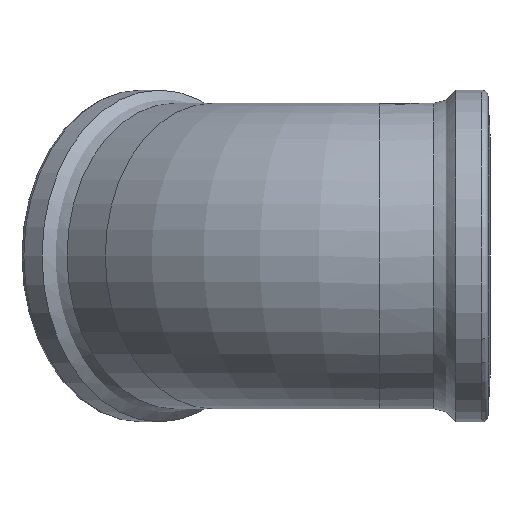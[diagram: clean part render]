
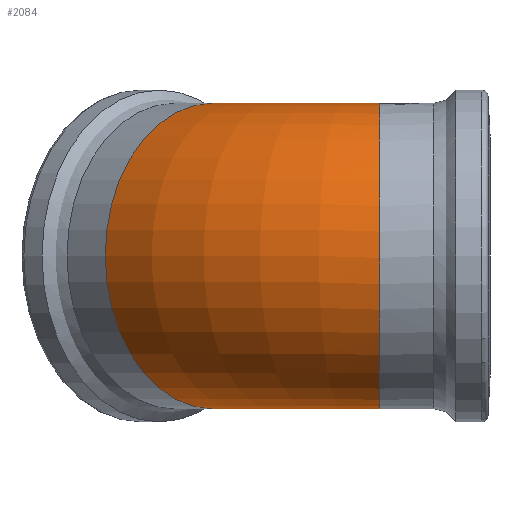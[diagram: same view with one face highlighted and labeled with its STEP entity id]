
A CAD part, left-side view. The second image highlights one B-rep face of the part: STEP entity #2084.
In plain terms, the highlighted toroidal (fillet/blend) face has major radius 37.4 mm and minor radius 24.25 mm.
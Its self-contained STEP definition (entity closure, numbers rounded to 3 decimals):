
#246=CARTESIAN_POINT('',(-0.134,17.5,24.25));
#247=VERTEX_POINT('',#246);
#257=CARTESIAN_POINT('',(-0.382,17.776,24.247));
#258=VERTEX_POINT('',#257);
#259=CARTESIAN_POINT('',(-0.382,17.776,24.247));
#260=CARTESIAN_POINT('',(-0.299,17.683,24.248));
#261=CARTESIAN_POINT('',(-0.216,17.591,24.249));
#262=CARTESIAN_POINT('',(-0.134,17.5,24.25));
#263=B_SPLINE_CURVE_WITH_KNOTS('',3,(#259,#260,#261,#262),.UNSPECIFIED.,.F.,.U.,(4,4),(23.257,23.293),.UNSPECIFIED.);
#264=EDGE_CURVE('',#258,#247,#263,.T.);
#338=CARTESIAN_POINT('',(-0.63,17.5,24.242));
#339=VERTEX_POINT('',#338);
#340=CARTESIAN_POINT('',(-0.63,17.5,24.242));
#341=CARTESIAN_POINT('',(-0.547,17.592,24.244));
#342=CARTESIAN_POINT('',(-0.464,17.684,24.246));
#343=CARTESIAN_POINT('',(-0.382,17.776,24.247));
#344=B_SPLINE_CURVE_WITH_KNOTS('',3,(#340,#341,#342,#343),.UNSPECIFIED.,.F.,.U.,(4,4),(23.175,23.211),.UNSPECIFIED.);
#345=EDGE_CURVE('',#339,#258,#344,.T.);
#913=CARTESIAN_POINT('',(23.829,17.5,-4.5));
#914=VERTEX_POINT('',#913);
#915=CARTESIAN_POINT('',(0.0,17.5,0.0));
#916=DIRECTION('',(0.0,-1.0,0.0));
#917=DIRECTION('',(1.0,0.0,0.0));
#918=AXIS2_PLACEMENT_3D('',#915,#916,#917);
#919=CIRCLE('',#918,24.25);
#920=EDGE_CURVE('',#339,#914,#919,.T.);
#939=CARTESIAN_POINT('',(23.829,17.5,4.5));
#940=VERTEX_POINT('',#939);
#947=CARTESIAN_POINT('',(0.0,17.5,0.0));
#948=DIRECTION('',(0.0,-1.0,0.0));
#949=DIRECTION('',(1.0,0.0,0.0));
#950=AXIS2_PLACEMENT_3D('',#947,#948,#949);
#951=CIRCLE('',#950,24.25);
#952=EDGE_CURVE('',#940,#247,#951,.T.);
#1239=CARTESIAN_POINT('',(27.804,27.096,-4.5));
#1240=VERTEX_POINT('',#1239);
#1241=CARTESIAN_POINT('',(37.4,17.5,-4.5));
#1242=DIRECTION('',(0.0,0.0,1.0));
#1243=DIRECTION('',(-1.0,0.0,0.0));
#1244=AXIS2_PLACEMENT_3D('',#1241,#1242,#1243);
#1245=CIRCLE('',#1244,13.571);
#1246=EDGE_CURVE('',#1240,#914,#1245,.T.);
#1320=CARTESIAN_POINT('',(27.804,27.096,4.5));
#1321=VERTEX_POINT('',#1320);
#1328=CARTESIAN_POINT('',(37.4,17.5,4.5));
#1329=DIRECTION('',(0.0,0.0,-1.0));
#1330=DIRECTION('',(-1.0,0.0,0.0));
#1331=AXIS2_PLACEMENT_3D('',#1328,#1329,#1330);
#1332=CIRCLE('',#1331,13.571);
#1333=EDGE_CURVE('',#940,#1321,#1332,.T.);
#2057=CARTESIAN_POINT('',(10.954,43.946,0.0));
#2058=DIRECTION('',(-0.707,-0.707,0.0));
#2059=DIRECTION('',(0.707,-0.707,0.0));
#2060=AXIS2_PLACEMENT_3D('',#2057,#2058,#2059);
#2061=CIRCLE('',#2060,24.25);
#2062=EDGE_CURVE('',#1321,#1240,#2061,.T.);
#2070=CARTESIAN_POINT('',(37.4,17.5,0.0));
#2071=DIRECTION('',(0.0,0.0,-1.0));
#2072=DIRECTION('',(-1.0,0.0,0.0));
#2073=AXIS2_PLACEMENT_3D('',#2070,#2071,#2072);
#2074=TOROIDAL_SURFACE('',#2073,37.4,24.25);
#2075=ORIENTED_EDGE('',*,*,#264,.T.);
#2076=ORIENTED_EDGE('',*,*,#952,.F.);
#2077=ORIENTED_EDGE('',*,*,#1333,.T.);
#2078=ORIENTED_EDGE('',*,*,#2062,.T.);
#2079=ORIENTED_EDGE('',*,*,#1246,.T.);
#2080=ORIENTED_EDGE('',*,*,#920,.F.);
#2081=ORIENTED_EDGE('',*,*,#345,.T.);
#2082=EDGE_LOOP('',(#2075,#2076,#2077,#2078,#2079,#2080,#2081));
#2083=FACE_OUTER_BOUND('',#2082,.T.);
#2084=ADVANCED_FACE('',(#2083),#2074,.T.);
